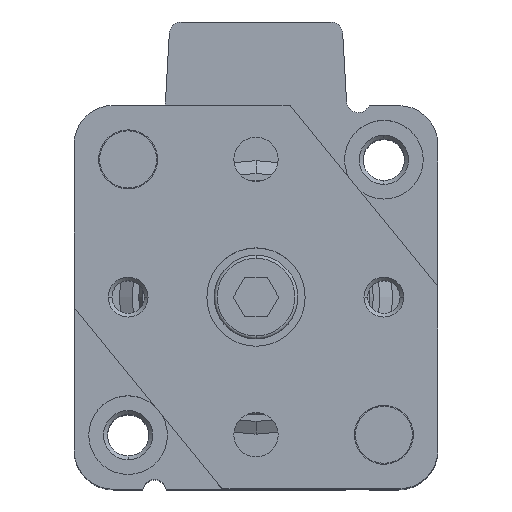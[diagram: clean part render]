
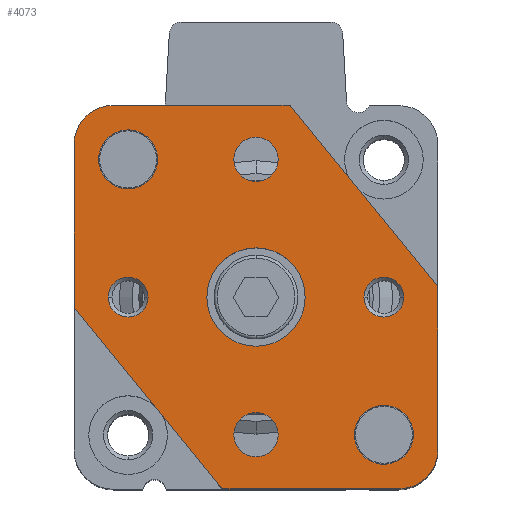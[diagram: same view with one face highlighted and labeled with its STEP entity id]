
A CAD part, top view. The second image highlights one B-rep face of the part: STEP entity #4073.
In plain terms, the highlighted planar face has unit normal (0, 0, 1).
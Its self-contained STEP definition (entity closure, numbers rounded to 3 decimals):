
#3013=CARTESIAN_POINT('',(0.,14.,0.));
#3014=DIRECTION('',(0.,0.,1.));
#3015=DIRECTION('',(-1.,0.,0.));
#3016=AXIS2_PLACEMENT_3D('',#3013,#3014,#3015);
#3018=CARTESIAN_POINT('',(0.,14.,0.));
#3019=DIRECTION('',(0.,0.,1.));
#3020=DIRECTION('',(1.,0.,0.));
#3021=AXIS2_PLACEMENT_3D('',#3018,#3019,#3020);
#3023=CARTESIAN_POINT('',(0.,-14.,0.));
#3024=DIRECTION('',(0.,0.,1.));
#3025=DIRECTION('',(-1.,0.,0.));
#3026=AXIS2_PLACEMENT_3D('',#3023,#3024,#3025);
#3028=CARTESIAN_POINT('',(0.,-14.,0.));
#3029=DIRECTION('',(0.,0.,1.));
#3030=DIRECTION('',(1.,0.,0.));
#3031=AXIS2_PLACEMENT_3D('',#3028,#3029,#3030);
#3033=DIRECTION('',(0.632,-0.775,0.));
#3034=VECTOR('',#3033,23.81);
#3035=CARTESIAN_POINT('',(3.459,19.5,0.));
#3036=LINE('',#3035,#3034);
#3037=DIRECTION('',(0.,-1.,0.));
#3038=VECTOR('',#3037,16.543);
#3039=CARTESIAN_POINT('',(18.5,1.043,0.));
#3040=LINE('',#3039,#3038);
#3041=CARTESIAN_POINT('',(14.5,-15.5,0.));
#3042=DIRECTION('',(0.,0.,-1.));
#3043=DIRECTION('',(1.,0.,0.));
#3044=AXIS2_PLACEMENT_3D('',#3041,#3042,#3043);
#3046=DIRECTION('',(-1.,0.,0.));
#3047=VECTOR('',#3046,17.959);
#3048=CARTESIAN_POINT('',(14.5,-19.5,0.));
#3049=LINE('',#3048,#3047);
#3050=DIRECTION('',(-0.632,0.775,0.));
#3051=VECTOR('',#3050,23.81);
#3052=CARTESIAN_POINT('',(-3.459,-19.5,0.));
#3053=LINE('',#3052,#3051);
#3054=DIRECTION('',(0.,1.,0.));
#3055=VECTOR('',#3054,16.543);
#3056=CARTESIAN_POINT('',(-18.5,-1.043,0.));
#3057=LINE('',#3056,#3055);
#3058=CARTESIAN_POINT('',(-14.5,15.5,0.));
#3059=DIRECTION('',(0.,0.,-1.));
#3060=DIRECTION('',(-1.,0.,0.));
#3061=AXIS2_PLACEMENT_3D('',#3058,#3059,#3060);
#3063=DIRECTION('',(1.,0.,0.));
#3064=VECTOR('',#3063,17.959);
#3065=CARTESIAN_POINT('',(-14.5,19.5,0.));
#3066=LINE('',#3065,#3064);
#3067=CARTESIAN_POINT('',(0.,0.,0.));
#3068=DIRECTION('',(0.,0.,1.));
#3069=DIRECTION('',(0.,1.,0.));
#3070=AXIS2_PLACEMENT_3D('',#3067,#3068,#3069);
#3072=CARTESIAN_POINT('',(0.,0.,0.));
#3073=DIRECTION('',(0.,0.,1.));
#3074=DIRECTION('',(0.,-1.,0.));
#3075=AXIS2_PLACEMENT_3D('',#3072,#3073,#3074);
#3087=CARTESIAN_POINT('',(-13.,14.,0.));
#3088=DIRECTION('',(0.,0.,1.));
#3089=DIRECTION('',(1.,0.,0.));
#3090=AXIS2_PLACEMENT_3D('',#3087,#3088,#3089);
#3092=CARTESIAN_POINT('',(-13.,14.,0.));
#3093=DIRECTION('',(0.,0.,1.));
#3094=DIRECTION('',(-1.,0.,0.));
#3095=AXIS2_PLACEMENT_3D('',#3092,#3093,#3094);
#3107=CARTESIAN_POINT('',(13.,-14.,0.));
#3108=DIRECTION('',(0.,0.,1.));
#3109=DIRECTION('',(1.,0.,0.));
#3110=AXIS2_PLACEMENT_3D('',#3107,#3108,#3109);
#3112=CARTESIAN_POINT('',(13.,-14.,0.));
#3113=DIRECTION('',(0.,0.,1.));
#3114=DIRECTION('',(-1.,0.,0.));
#3115=AXIS2_PLACEMENT_3D('',#3112,#3113,#3114);
#3280=CARTESIAN_POINT('',(13.,0.,0.));
#3281=DIRECTION('',(0.,0.,1.));
#3282=DIRECTION('',(1.,0.,0.));
#3283=AXIS2_PLACEMENT_3D('',#3280,#3281,#3282);
#3290=CARTESIAN_POINT('',(13.,0.,0.));
#3291=DIRECTION('',(0.,0.,1.));
#3292=DIRECTION('',(-1.,0.,0.));
#3293=AXIS2_PLACEMENT_3D('',#3290,#3291,#3292);
#3344=CARTESIAN_POINT('',(-13.,0.,0.));
#3345=DIRECTION('',(0.,0.,1.));
#3346=DIRECTION('',(1.,0.,0.));
#3347=AXIS2_PLACEMENT_3D('',#3344,#3345,#3346);
#3354=CARTESIAN_POINT('',(-13.,0.,0.));
#3355=DIRECTION('',(0.,0.,1.));
#3356=DIRECTION('',(-1.,0.,0.));
#3357=AXIS2_PLACEMENT_3D('',#3354,#3355,#3356);
#3791=CARTESIAN_POINT('',(-2.25,14.,0.));
#3792=CARTESIAN_POINT('',(2.25,14.,0.));
#3793=VERTEX_POINT('',#3791);
#3794=VERTEX_POINT('',#3792);
#3795=CARTESIAN_POINT('',(-2.25,-14.,0.));
#3796=CARTESIAN_POINT('',(2.25,-14.,0.));
#3797=VERTEX_POINT('',#3795);
#3798=VERTEX_POINT('',#3796);
#3799=CARTESIAN_POINT('',(-18.5,15.5,0.));
#3800=CARTESIAN_POINT('',(-14.5,19.5,0.));
#3801=VERTEX_POINT('',#3799);
#3802=VERTEX_POINT('',#3800);
#3803=CARTESIAN_POINT('',(18.5,-15.5,0.));
#3804=CARTESIAN_POINT('',(14.5,-19.5,0.));
#3805=VERTEX_POINT('',#3803);
#3806=VERTEX_POINT('',#3804);
#3815=CARTESIAN_POINT('',(3.459,19.5,0.));
#3816=CARTESIAN_POINT('',(18.5,1.043,0.));
#3817=VERTEX_POINT('',#3815);
#3818=VERTEX_POINT('',#3816);
#3819=CARTESIAN_POINT('',(-3.459,-19.5,0.));
#3820=CARTESIAN_POINT('',(-18.5,-1.043,0.));
#3821=VERTEX_POINT('',#3819);
#3822=VERTEX_POINT('',#3820);
#3831=CARTESIAN_POINT('',(-10.971,0.,0.));
#3832=CARTESIAN_POINT('',(-15.029,0.,0.));
#3833=VERTEX_POINT('',#3831);
#3834=VERTEX_POINT('',#3832);
#3839=CARTESIAN_POINT('',(15.029,0.,0.));
#3840=CARTESIAN_POINT('',(10.971,0.,0.));
#3841=VERTEX_POINT('',#3839);
#3842=VERTEX_POINT('',#3840);
#3879=CARTESIAN_POINT('',(0.,5.,0.));
#3880=CARTESIAN_POINT('',(0.,-5.,0.));
#3881=VERTEX_POINT('',#3879);
#3882=VERTEX_POINT('',#3880);
#3983=CARTESIAN_POINT('',(-10.,14.,0.));
#3984=CARTESIAN_POINT('',(-16.,14.,0.));
#3985=VERTEX_POINT('',#3983);
#3986=VERTEX_POINT('',#3984);
#3991=CARTESIAN_POINT('',(16.,-14.,0.));
#3992=CARTESIAN_POINT('',(10.,-14.,0.));
#3993=VERTEX_POINT('',#3991);
#3994=VERTEX_POINT('',#3992);
#4008=CARTESIAN_POINT('',(0.,0.,0.));
#4009=DIRECTION('',(0.,0.,1.));
#4010=DIRECTION('',(1.,0.,0.));
#4011=AXIS2_PLACEMENT_3D('',#4008,#4009,#4010);
#4012=PLANE('',#4011);
#4014=ORIENTED_EDGE('',*,*,#4013,.T.);
#4016=ORIENTED_EDGE('',*,*,#4015,.T.);
#4018=ORIENTED_EDGE('',*,*,#4017,.T.);
#4020=ORIENTED_EDGE('',*,*,#4019,.T.);
#4022=ORIENTED_EDGE('',*,*,#4021,.T.);
#4024=ORIENTED_EDGE('',*,*,#4023,.T.);
#4026=ORIENTED_EDGE('',*,*,#4025,.T.);
#4028=ORIENTED_EDGE('',*,*,#4027,.T.);
#4029=EDGE_LOOP('',(#4014,#4016,#4018,#4020,#4022,#4024,#4026,#4028));
#4030=FACE_OUTER_BOUND('',#4029,.F.);
#4032=ORIENTED_EDGE('',*,*,#4031,.T.);
#4034=ORIENTED_EDGE('',*,*,#4033,.T.);
#4035=EDGE_LOOP('',(#4032,#4034));
#4036=FACE_BOUND('',#4035,.F.);
#4038=ORIENTED_EDGE('',*,*,#4037,.T.);
#4040=ORIENTED_EDGE('',*,*,#4039,.T.);
#4041=EDGE_LOOP('',(#4038,#4040));
#4042=FACE_BOUND('',#4041,.F.);
#4044=ORIENTED_EDGE('',*,*,#4043,.T.);
#4046=ORIENTED_EDGE('',*,*,#4045,.T.);
#4047=EDGE_LOOP('',(#4044,#4046));
#4048=FACE_BOUND('',#4047,.F.);
#4050=ORIENTED_EDGE('',*,*,#4049,.T.);
#4052=ORIENTED_EDGE('',*,*,#4051,.T.);
#4053=EDGE_LOOP('',(#4050,#4052));
#4054=FACE_BOUND('',#4053,.F.);
#4056=ORIENTED_EDGE('',*,*,#4055,.T.);
#4058=ORIENTED_EDGE('',*,*,#4057,.T.);
#4059=EDGE_LOOP('',(#4056,#4058));
#4060=FACE_BOUND('',#4059,.F.);
#4062=ORIENTED_EDGE('',*,*,#4061,.T.);
#4064=ORIENTED_EDGE('',*,*,#4063,.T.);
#4065=EDGE_LOOP('',(#4062,#4064));
#4066=FACE_BOUND('',#4065,.F.);
#4068=ORIENTED_EDGE('',*,*,#4067,.T.);
#4070=ORIENTED_EDGE('',*,*,#4069,.T.);
#4071=EDGE_LOOP('',(#4068,#4070));
#4072=FACE_BOUND('',#4071,.F.);
#4073=ADVANCED_FACE('',(#4030,#4036,#4042,#4048,#4054,#4060,#4066,#4072),#4012,
.T.);
#3017=CIRCLE('',#3016,2.25);
#3022=CIRCLE('',#3021,2.25);
#3027=CIRCLE('',#3026,2.25);
#3032=CIRCLE('',#3031,2.25);
#3045=CIRCLE('',#3044,4.);
#3062=CIRCLE('',#3061,4.);
#3071=CIRCLE('',#3070,5.);
#3076=CIRCLE('',#3075,5.);
#3091=CIRCLE('',#3090,3.);
#3096=CIRCLE('',#3095,3.);
#3111=CIRCLE('',#3110,3.);
#3116=CIRCLE('',#3115,3.);
#3284=CIRCLE('',#3283,2.029);
#3294=CIRCLE('',#3293,2.029);
#3348=CIRCLE('',#3347,2.029);
#3358=CIRCLE('',#3357,2.029);
#4013=EDGE_CURVE('',#3817,#3818,#3036,.T.);
#4015=EDGE_CURVE('',#3818,#3805,#3040,.T.);
#4017=EDGE_CURVE('',#3805,#3806,#3045,.T.);
#4019=EDGE_CURVE('',#3806,#3821,#3049,.T.);
#4021=EDGE_CURVE('',#3821,#3822,#3053,.T.);
#4023=EDGE_CURVE('',#3822,#3801,#3057,.T.);
#4025=EDGE_CURVE('',#3801,#3802,#3062,.T.);
#4027=EDGE_CURVE('',#3802,#3817,#3066,.T.);
#4031=EDGE_CURVE('',#3793,#3794,#3017,.T.);
#4033=EDGE_CURVE('',#3794,#3793,#3022,.T.);
#4037=EDGE_CURVE('',#3797,#3798,#3027,.T.);
#4039=EDGE_CURVE('',#3798,#3797,#3032,.T.);
#4043=EDGE_CURVE('',#3842,#3841,#3294,.T.);
#4045=EDGE_CURVE('',#3841,#3842,#3284,.T.);
#4049=EDGE_CURVE('',#3834,#3833,#3358,.T.);
#4051=EDGE_CURVE('',#3833,#3834,#3348,.T.);
#4055=EDGE_CURVE('',#3881,#3882,#3071,.T.);
#4057=EDGE_CURVE('',#3882,#3881,#3076,.T.);
#4061=EDGE_CURVE('',#3985,#3986,#3091,.T.);
#4063=EDGE_CURVE('',#3986,#3985,#3096,.T.);
#4067=EDGE_CURVE('',#3993,#3994,#3111,.T.);
#4069=EDGE_CURVE('',#3994,#3993,#3116,.T.);
